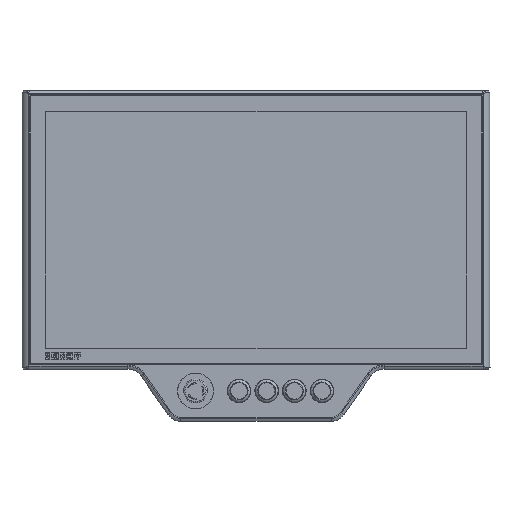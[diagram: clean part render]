
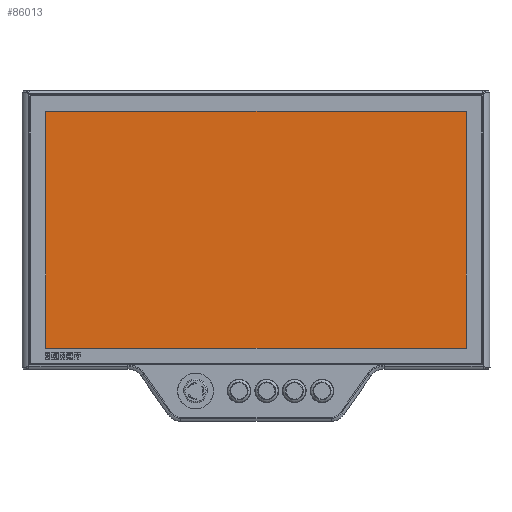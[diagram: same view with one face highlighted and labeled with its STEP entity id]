
A CAD part, top view. The second image highlights one B-rep face of the part: STEP entity #86013.
In plain terms, the highlighted planar face has unit normal (0, 0, 1).
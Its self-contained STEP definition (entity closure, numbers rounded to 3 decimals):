
#4095=LINE('',#120708,#11220);
#4096=LINE('',#120710,#11221);
#4097=LINE('',#120712,#11222);
#4098=LINE('',#120713,#11223);
#11220=VECTOR('',#99210,10.);
#11221=VECTOR('',#99211,10.);
#11222=VECTOR('',#99212,10.);
#11223=VECTOR('',#99213,10.);
#19962=FACE_OUTER_BOUND('',#24717,.T.);
#24717=EDGE_LOOP('',(#54992,#54993,#54994,#54995));
#33063=VERTEX_POINT('',#120706);
#33064=VERTEX_POINT('',#120707);
#33065=VERTEX_POINT('',#120709);
#33066=VERTEX_POINT('',#120711);
#41641=EDGE_CURVE('',#33063,#33064,#4095,.T.);
#41642=EDGE_CURVE('',#33064,#33065,#4096,.T.);
#41643=EDGE_CURVE('',#33065,#33066,#4097,.T.);
#41644=EDGE_CURVE('',#33066,#33063,#4098,.T.);
#54992=ORIENTED_EDGE('',*,*,#41641,.T.);
#54993=ORIENTED_EDGE('',*,*,#41642,.T.);
#54994=ORIENTED_EDGE('',*,*,#41643,.T.);
#54995=ORIENTED_EDGE('',*,*,#41644,.T.);
#78895=PLANE('',#91201);
#86013=ADVANCED_FACE('',(#19962),#78895,.T.);
#91201=AXIS2_PLACEMENT_3D('',#120705,#99208,#99209);
#99208=DIRECTION('center_axis',(0.,0.,
1.));
#99209=DIRECTION('ref_axis',(1.,0.,0.));
#99210=DIRECTION('',(0.,1.,0.));
#99211=DIRECTION('',(-1.,0.,0.));
#99212=DIRECTION('',(0.,-1.,0.));
#99213=DIRECTION('',(1.,0.,0.));
#120705=CARTESIAN_POINT('Origin',(0.,0.,
-0.2));
#120706=CARTESIAN_POINT('',(266.1,-149.9,-0.2));
#120707=CARTESIAN_POINT('',(266.1,149.9,-0.2));
#120708=CARTESIAN_POINT('',(266.1,74.95,-0.2));
#120709=CARTESIAN_POINT('',(-266.1,149.9,-0.2));
#120710=CARTESIAN_POINT('',(-133.05,149.9,-0.2));
#120711=CARTESIAN_POINT('',(-266.1,-149.9,-0.2));
#120712=CARTESIAN_POINT('',(-266.1,-74.95,-0.2));
#120713=CARTESIAN_POINT('',(133.05,-149.9,-0.2));
